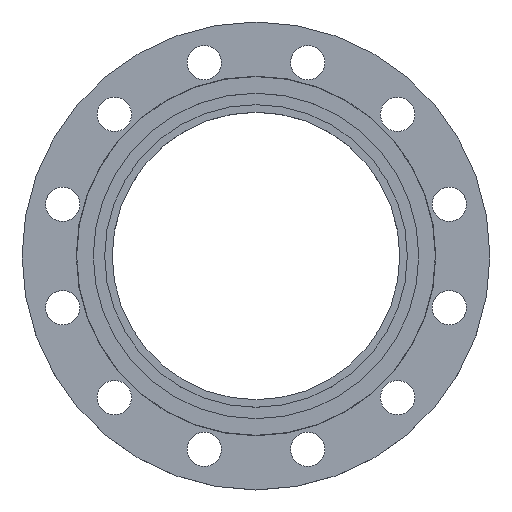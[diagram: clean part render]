
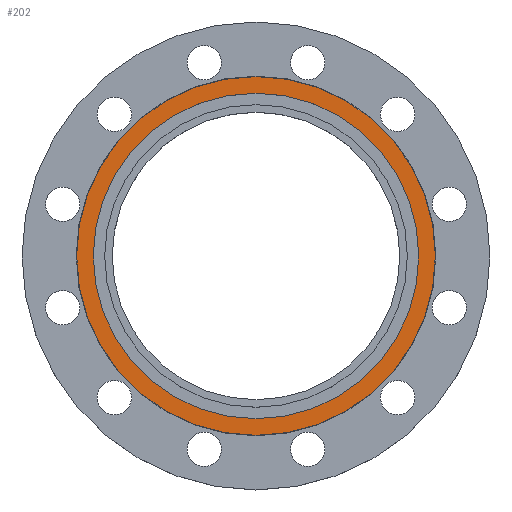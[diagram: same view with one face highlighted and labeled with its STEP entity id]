
A CAD part, top view. The second image highlights one B-rep face of the part: STEP entity #202.
In plain terms, the highlighted planar face has unit normal (0, 0, 1).
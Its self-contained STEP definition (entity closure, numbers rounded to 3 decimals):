
#141 = CARTESIAN_POINT ( 'NONE',  ( 0., 0., 0. ) ) ;
#142 = DIRECTION ( 'NONE',  ( 0., 0., -1. ) ) ;
#143 = DIRECTION ( 'NONE',  ( -1., 0., 0. ) ) ;
#202 = ADVANCED_FACE ( 'NONE', ( #804, #803 ), #802, .T. ) ;
#226 = EDGE_CURVE ( 'NONE', #875, #920, #1327, .T. ) ;
#246 = DIRECTION ( 'NONE',  ( -1., 0., 0. ) ) ;
#247 = DIRECTION ( 'NONE',  ( 0., 0., -1. ) ) ;
#248 = CARTESIAN_POINT ( 'NONE',  ( 0., 0., 0. ) ) ;
#264 = EDGE_CURVE ( 'NONE', #920, #875, #1250, .T. ) ;
#276 = AXIS2_PLACEMENT_3D ( 'NONE', #749, #748, #747 ) ;
#569 = CARTESIAN_POINT ( 'NONE',  ( 172.5, 0., 0. ) ) ;
#571 = CARTESIAN_POINT ( 'NONE',  ( 156.5, 0., 0. ) ) ;
#574 = CARTESIAN_POINT ( 'NONE',  ( -156.5, 0., 0. ) ) ;
#579 = CARTESIAN_POINT ( 'NONE',  ( -172.5, 0., 0. ) ) ;
#747 = DIRECTION ( 'NONE',  ( -1., 0., 0. ) ) ;
#748 = DIRECTION ( 'NONE',  ( 0., 0., -1. ) ) ;
#749 = CARTESIAN_POINT ( 'NONE',  ( 0., 0., 0. ) ) ;
#783 = DIRECTION ( 'NONE',  ( -1., 0., 0. ) ) ;
#784 = DIRECTION ( 'NONE',  ( 0., 0., -1. ) ) ;
#785 = CARTESIAN_POINT ( 'NONE',  ( 0., 0., 0. ) ) ;
#799 = DIRECTION ( 'NONE',  ( 1., 0., 0. ) ) ;
#800 = DIRECTION ( 'NONE',  ( 0., 0., 1. ) ) ;
#801 = CARTESIAN_POINT ( 'NONE',  ( 0., 0., 0. ) ) ;
#802 = PLANE ( 'NONE',  #1340 ) ;
#803 = FACE_BOUND ( 'NONE', #1203, .T. ) ;
#804 = FACE_OUTER_BOUND ( 'NONE', #965, .T. ) ;
#824 = CIRCLE ( 'NONE', #827, 156.5 ) ;
#827 = AXIS2_PLACEMENT_3D ( 'NONE', #248, #247, #246 ) ;
#875 = VERTEX_POINT ( 'NONE', #579 ) ;
#904 = VERTEX_POINT ( 'NONE', #574 ) ;
#914 = VERTEX_POINT ( 'NONE', #571 ) ;
#920 = VERTEX_POINT ( 'NONE', #569 ) ;
#965 = EDGE_LOOP ( 'NONE', ( #1266, #1269 ) ) ;
#1014 = CIRCLE ( 'NONE', #1018, 156.5 ) ;
#1018 = AXIS2_PLACEMENT_3D ( 'NONE', #141, #142, #143 ) ;
#1176 = EDGE_CURVE ( 'NONE', #904, #914, #824, .T. ) ;
#1203 = EDGE_LOOP ( 'NONE', ( #1270, #1271 ) ) ;
#1241 = EDGE_CURVE ( 'NONE', #914, #904, #1014, .T. ) ;
#1250 = CIRCLE ( 'NONE', #276, 172.5 ) ;
#1266 = ORIENTED_EDGE ( 'NONE', *, *, #226, .F. ) ;
#1269 = ORIENTED_EDGE ( 'NONE', *, *, #264, .F. ) ;
#1270 = ORIENTED_EDGE ( 'NONE', *, *, #1176, .T. ) ;
#1271 = ORIENTED_EDGE ( 'NONE', *, *, #1241, .T. ) ;
#1302 = AXIS2_PLACEMENT_3D ( 'NONE', #785, #784, #783 ) ;
#1327 = CIRCLE ( 'NONE', #1302, 172.5 ) ;
#1340 = AXIS2_PLACEMENT_3D ( 'NONE', #801, #800, #799 ) ;
